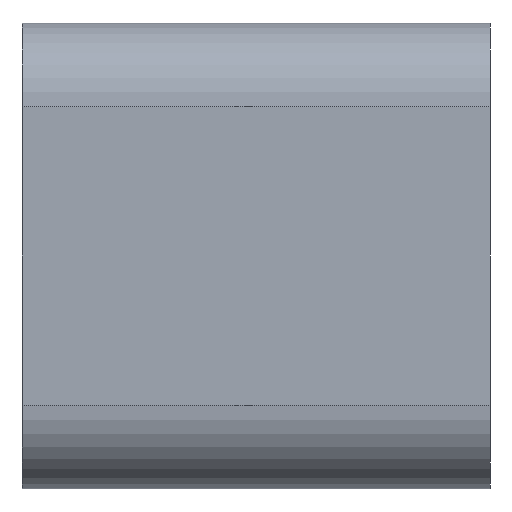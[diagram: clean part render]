
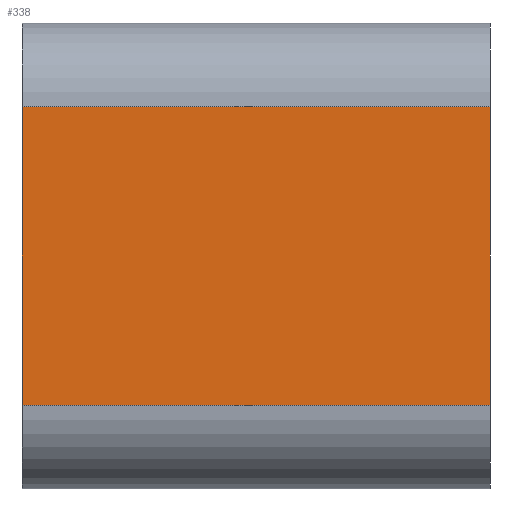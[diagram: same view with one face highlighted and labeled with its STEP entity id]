
A CAD part, left-side view. The second image highlights one B-rep face of the part: STEP entity #338.
In plain terms, the highlighted planar face has unit normal (-1, 0, 0).
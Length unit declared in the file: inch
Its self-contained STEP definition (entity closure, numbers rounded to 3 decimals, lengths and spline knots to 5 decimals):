
#50=FACE_OUTER_BOUND('',#68,.T.);
#68=EDGE_LOOP('',(#259,#260,#261,#262));
#96=LINE('',#554,#128);
#97=LINE('',#557,#129);
#98=LINE('',#559,#130);
#99=LINE('',#560,#131);
#128=VECTOR('',#452,0.3937);
#129=VECTOR('',#455,0.3937);
#130=VECTOR('',#456,0.3937);
#131=VECTOR('',#457,0.3937);
#159=VERTEX_POINT('',#547);
#162=VERTEX_POINT('',#552);
#163=VERTEX_POINT('',#556);
#164=VERTEX_POINT('',#558);
#202=EDGE_CURVE('',#162,#159,#96,.T.);
#203=EDGE_CURVE('',#163,#162,#97,.T.);
#204=EDGE_CURVE('',#164,#163,#98,.T.);
#205=EDGE_CURVE('',#159,#164,#99,.T.);
#259=ORIENTED_EDGE('',*,*,#202,.F.);
#260=ORIENTED_EDGE('',*,*,#203,.F.);
#261=ORIENTED_EDGE('',*,*,#204,.F.);
#262=ORIENTED_EDGE('',*,*,#205,.F.);
#323=PLANE('',#380);
#338=ADVANCED_FACE('',(#50),#323,.T.);
#380=AXIS2_PLACEMENT_3D('',#555,#453,#454);
#452=DIRECTION('',(0.,1.,0.));
#453=DIRECTION('center_axis',(-1.,0.,0.));
#454=DIRECTION('ref_axis',(0.,0.,1.));
#455=DIRECTION('',(0.,0.,-1.));
#456=DIRECTION('',(0.,-1.,0.));
#457=DIRECTION('',(0.,0.,1.));
#547=CARTESIAN_POINT('',(-1.,2.01,-0.64));
#552=CARTESIAN_POINT('',(-1.,0.,-0.64));
#554=CARTESIAN_POINT('',(-1.,0.,-0.64));
#555=CARTESIAN_POINT('Origin',(-1.,0.,-1.));
#556=CARTESIAN_POINT('',(-1.,0.,0.64));
#557=CARTESIAN_POINT('',(-1.,0.,1.));
#558=CARTESIAN_POINT('',(-1.,2.01,0.64));
#559=CARTESIAN_POINT('',(-1.,0.,0.64));
#560=CARTESIAN_POINT('',(-1.,2.01,1.));
